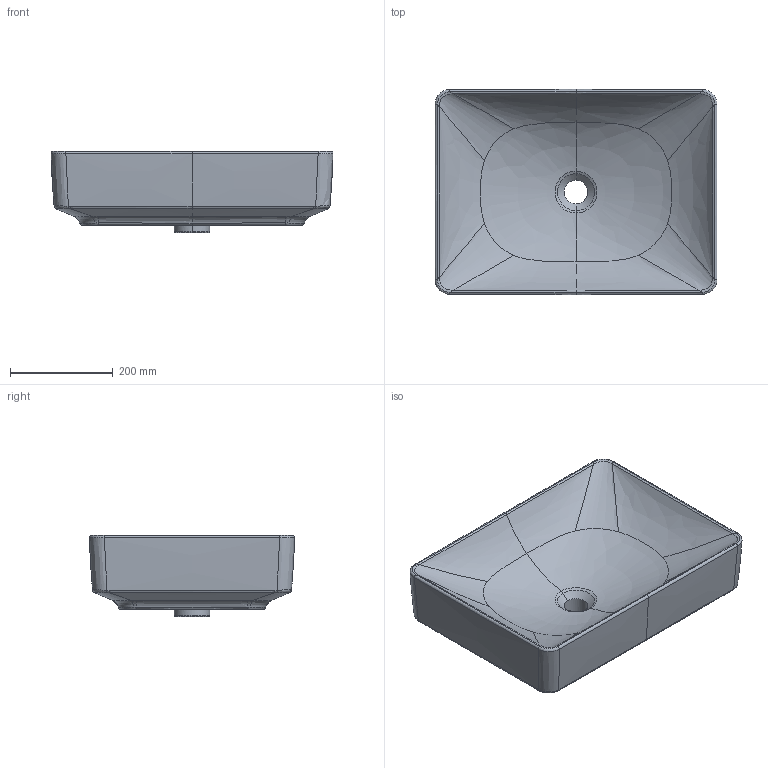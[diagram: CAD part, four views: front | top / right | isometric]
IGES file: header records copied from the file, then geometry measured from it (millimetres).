
Global section: file name: 500779; native system: Autodesk Inventor 2018; preprocessor: unknown; author: JANAN; date: 20200227.111303; units: millimetre
Bounding box: 549.86 x 400 x 158.24 mm (x, y, z)
Volume: 16502673.2 mm3; surface area: 692310.6 mm2
Topology: 1 solids, 1 shells, 117 faces, 270 edges, 157 vertices
Faces by surface type: bspline 117
